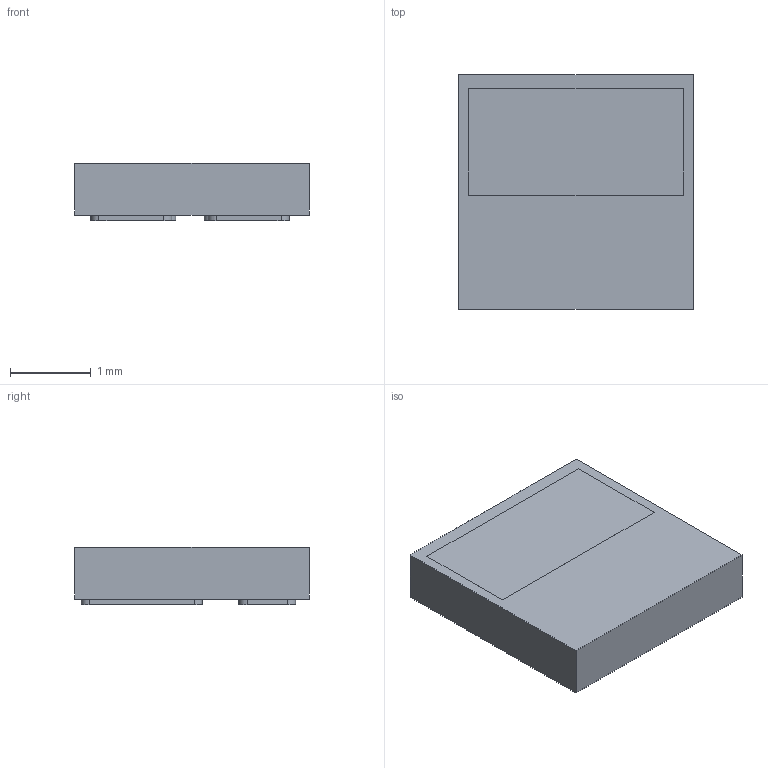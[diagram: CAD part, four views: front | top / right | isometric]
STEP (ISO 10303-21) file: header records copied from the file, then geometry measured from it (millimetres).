
FILE_DESCRIPTION (( 'STEP AP203' ), '1' );
FILE_NAME ('HFL2-T4.STEP', '2019-12-31T01:38:22', ( 'PC' ), ( 'Microsoft' ), 'SwSTEP 2.0', 'SolidWorks 2018', '' );
FILE_SCHEMA (( 'CONFIG_CONTROL_DESIGN' ));
Length unit declared in the file: millimetre
Products named in the file (1): HFL2-T4
Bounding box: 2.9 x 2.9 x 0.71 mm (x, y, z)
Volume: 5.7 mm3; surface area: 25.4 mm2
Topology: 1 solids, 1 shells, 47 faces, 120 edges, 80 vertices
Faces by surface type: plane 32, cylinder 15
Entity records: 1501 total; most frequent: CARTESIAN_POINT 248, DIRECTION 246, ORIENTED_EDGE 240, EDGE_CURVE 120, LINE 90, VECTOR 90, VERTEX_POINT 80, AXIS2_PLACEMENT_3D 78
